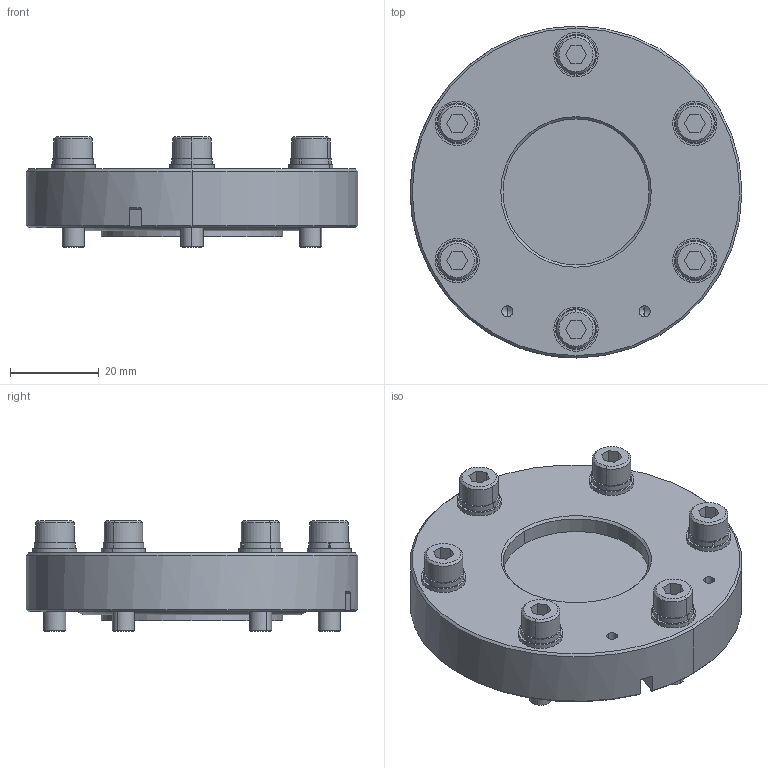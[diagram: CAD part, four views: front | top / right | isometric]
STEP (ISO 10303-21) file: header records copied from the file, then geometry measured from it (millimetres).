
FILE_DESCRIPTION (( 'STEP AP214' ), '1' );
FILE_NAME ('JK040-G-A-V-200503.STEP', '2020-05-03T05:42:54', ( '' ), ( '' ), 'SwSTEP 2.0', 'SolidWorks 2018', '' );
FILE_SCHEMA (( 'AUTOMOTIVE_DESIGN' ));
Length unit declared in the file: millimetre
Products named in the file (9): A32-0520-000_ル遽; A32-0520-000-A_ル遽; A31-0005-000_ル遽; A43-0005-000_ル遽; JK040-01B; JK04004A; JK04002A; JK040-G-A-V-200503; JK040-03D
Assembly tree (13 placements, depth 3):
  JK040-G-A-V-200503
    JK040-01B
    JK040-03D
    A32-0520-000-A_ル遽  x6
      A43-0005-000_ル遽
      A31-0005-000_ル遽
      A32-0520-000_ル遽
    JK04004A
    JK04002A
Bounding box: 75 x 75 x 25 mm (x, y, z)
Volume: 51575.1 mm3; surface area: 29310 mm2
Topology: 22 solids, 22 shells, 290 faces, 651 edges, 416 vertices
Faces by surface type: cylinder 119, plane 109, cone 42, torus 20
Entity records: 3982 total; most frequent: CARTESIAN_POINT 748, DIRECTION 674, ORIENTED_EDGE 554, AXIS2_PLACEMENT_3D 288, EDGE_CURVE 277, VERTEX_POINT 176, CIRCLE 151, EDGE_LOOP 145
